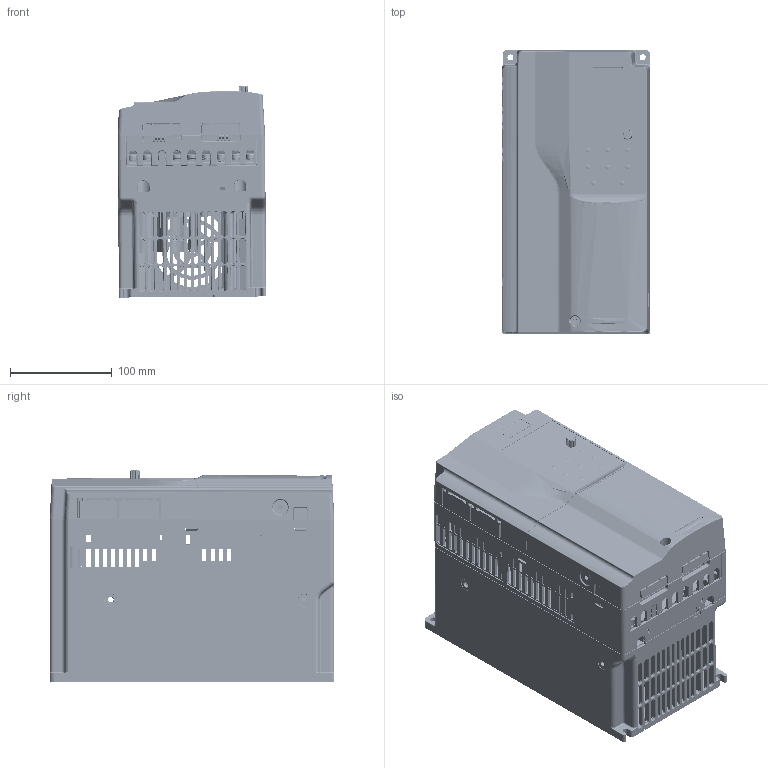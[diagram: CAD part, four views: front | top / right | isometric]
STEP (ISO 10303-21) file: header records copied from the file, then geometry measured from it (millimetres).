
FILE_DESCRIPTION((''),'2;1');
FILE_NAME('GD290-011G015P-4_ASM','2025-04-10T09:30:08',('Administrator'),(''),'CREO PARAMETRIC BY PTC INC, 2019080','CREO PARAMETRIC BY PTC INC, 2019080','');
FILE_SCHEMA(('CONFIG_CONTROL_DESIGN'));
Products named in the file (77): 80740317_1; GB809-M5X6A_1; 80740317_ASM_1_ASM; 80310650_1; TPR-3-8-SL_1; 80310650_ASM_1_ASM; 80740316_1; GB809-M4X6A_1; 80740316_ASM_1_ASM; 80880694_1; 80880694_ASM_1_ASM; 80810220_1; 80810219_1; 80810219SY_1; 80810219SY_ASM_1_ASM; TB1450-00-C-GD207_1_1; TB1450-00-C-GD207_2_1; TB1450-00-C-GD207_3_1; TB1450-00-C-GD207_4_1; TB1450-00-C-GD207_5_1; TB1450-00-C-GD207_6_1; TB1450-00-C-GD207_7_1; TB1450-00-C-GD207_8_1; TB1450-00-C-GD207_9_1; TB1450-00-C-GD207_10_1; TB1450-00-C-GD207_11_1; TB1450-00-C-GD207_12_1; TB1450-00-C-GD207_13_1; TB1450-00-C-GD207_14_1; TB1450-00-C-GD207_15_1; TB1450-00-C-GD207_16_1; TB1450-00-C-GD207_17_1; TB1450-00-C-GD207_18_1; TB1450-00-C-GD207_19_1; TB1450-00-C-GD207_20_1; TB1450-00-C-GD207_21_1; TB1450-00-C-GD207_22_1; TB1450-00-C-GD207_23_1; TB1450-00-C-GD207_24_1; TB1450-00-C-GD207_25_1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
Assembly tree (82 placements, depth 7):
  GD290-011G015P-4_ASM
    GD270-015-4_ASM_1_ASM
      80740317_ASM_1_ASM
        80740317_1
        GB809-M5X6A_1  x4
      80310650_ASM_1_ASM
        80310650_1
        TPR-3-8-SL_1  x2
      80740316_ASM_1_ASM
        80740316_1
        GB809-M4X6A_1  x2
      80880694_ASM_1_ASM
        80880694_1
        GB809-M4X6A_1
      80810220_1
      80810219SY_ASM_1_ASM
        80810219_1
        80810219SY_1
      GD270-015-4-ES_ASM_1_ASM
        17003-04775-DR1_C2_ASM_1_ASM
          TB1450A-13-9P-C-10_11_ASM_1_ASM
            TB1450-00-C-GD207_ASM_1_ASM
              TB1450-00-C-GD207_1_1
              TB1450-00-C-GD207_2_1
              TB1450-00-C-GD207_3_1
              TB1450-00-C-GD207_4_1
              TB1450-00-C-GD207_5_1
              TB1450-00-C-GD207_6_1
              TB1450-00-C-GD207_7_1
              TB1450-00-C-GD207_8_1
              TB1450-00-C-GD207_9_1
              TB1450-00-C-GD207_10_1
              TB1450-00-C-GD207_11_1
              TB1450-00-C-GD207_12_1
              TB1450-00-C-GD207_13_1
              TB1450-00-C-GD207_14_1
              TB1450-00-C-GD207_15_1
              TB1450-00-C-GD207_16_1
              TB1450-00-C-GD207_17_1
              TB1450-00-C-GD207_18_1
              TB1450-00-C-GD207_19_1
              TB1450-00-C-GD207_20_1
              TB1450-00-C-GD207_21_1
              TB1450-00-C-GD207_22_1
              TB1450-00-C-GD207_23_1
              TB1450-00-C-GD207_24_1
              TB1450-00-C-GD207_25_1
              TB1450-00-C-GD207_26_1
              TB1450-00-C-GD207_27_1
              TB1450-00-C-GD207_28_1
              TB1450-00-C-GD207_29_1
              TB1450-00-C-GD207_30_1
              TB1450-00-C-GD207_31_1
              TB1450-00-C-GD207_32_1
              TB1450-00-C-GD207_33_1
              TB1450-00-C-GD207_34_1
              TB1450-00-C-GD207_35_1
              TB1450-00-C-GD207_36_1
              TB1450-00-C-GD207_37_1
              TB1450-00-C-GD207_38_1
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Bounding box: 146.28 x 280 x 207.68 mm (x, y, z)
Volume: 897066.3 mm3; surface area: 967244.4 mm2
Topology: 69 solids, 69 shells, 13564 faces, 38439 edges, 25147 vertices
Faces by surface type: plane 8009, cylinder 3658, torus 670, cone 599, bspline 454, extrusion 128, sphere 42, revolution 4
Entity records: 495343 total; most frequent: CARTESIAN_POINT 165425, ORIENTED_EDGE 71492, DIRECTION 65098, EDGE_CURVE 35746, VECTOR 23642, LINE 23514, VERTEX_POINT 23389, AXIS2_PLACEMENT_3D 20726
